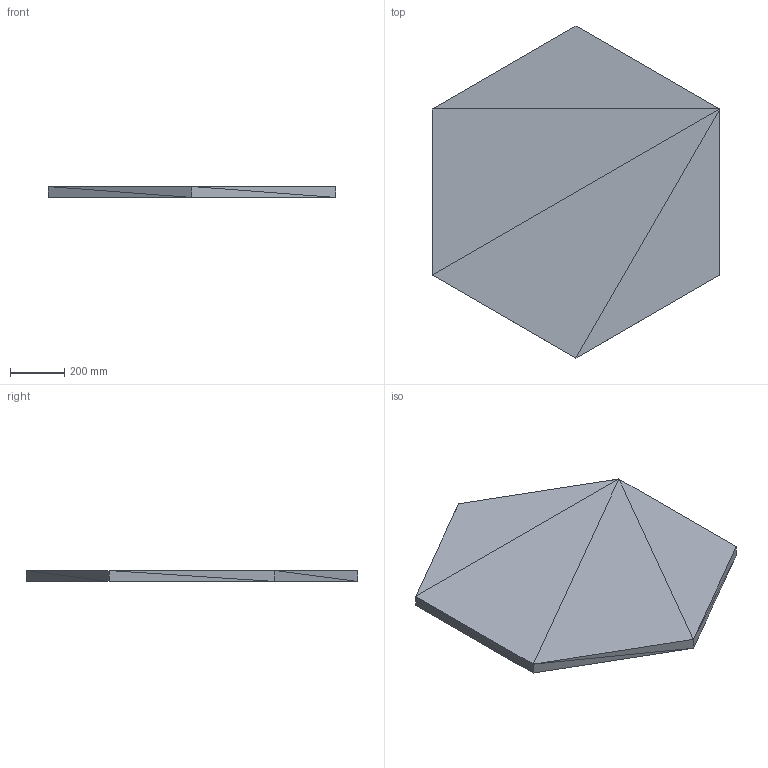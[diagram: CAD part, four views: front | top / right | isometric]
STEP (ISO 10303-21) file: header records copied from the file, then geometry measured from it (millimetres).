
FILE_DESCRIPTION(('ISINAC STEP AP214'),'2;1');
FILE_NAME('ISINAC_HEX.610_40mm_ADHESIVO','2026-05-03T10:49:19',('ISINAC'),('www.isinac.com'),'ISINAC BIM Generator 1.0','','');
FILE_SCHEMA(('AUTOMOTIVE_DESIGN'));
Length unit declared in the file: millimetre
Products named in the file (1): ISINAC_HEX.610_40mm_ADHESIVO
Bounding box: 1056.55 x 1220 x 40 mm (x, y, z)
Surface area: 2079888.3 mm2 (no closed solid volume)
Topology: 0 solids, 20 shells, 20 faces, 60 edges, 60 vertices
Faces by surface type: plane 20
Entity records: 233 total; most frequent: CARTESIAN_POINT 80, DIRECTION 40, POLY_LOOP 20, FACE_OUTER_BOUND 20, AXIS2_PLACEMENT_3D 20, PLANE 20, FACE_SURFACE 20, CLOSED_SHELL 1
